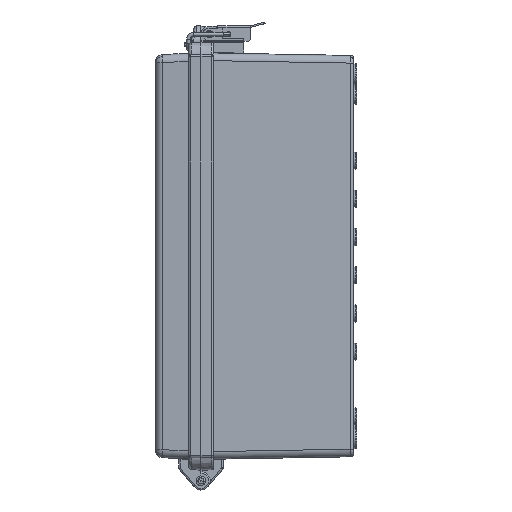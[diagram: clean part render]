
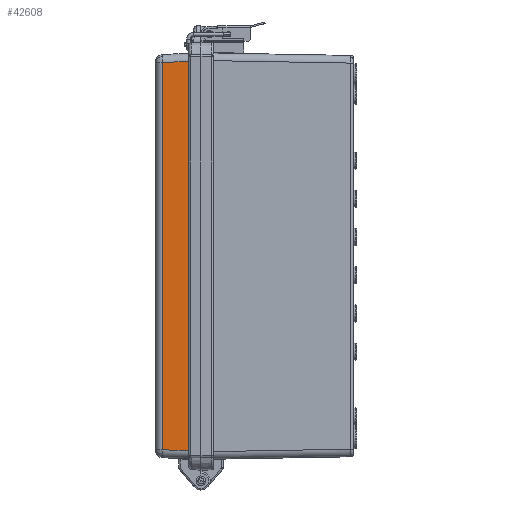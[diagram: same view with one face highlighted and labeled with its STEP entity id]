
A CAD part, left-side view. The second image highlights one B-rep face of the part: STEP entity #42608.
In plain terms, the highlighted planar face has unit normal (-0.999, 0.044, 0) as drawn and (0.999, -0.044, 0) by its records, which use the part's own axes.
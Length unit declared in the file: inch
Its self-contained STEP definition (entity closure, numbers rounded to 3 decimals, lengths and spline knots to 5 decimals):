
#2623 = DIRECTION ( 'NONE',  ( 0.044, 0.998, -0.044 ) ) ;
#10428 = FACE_OUTER_BOUND ( 'NONE', #17986, .T. ) ;
#11627 = DIRECTION ( 'NONE',  ( 0.999, -0.044, 0. ) ) ;
#11859 = VERTEX_POINT ( 'NONE', #43652 ) ;
#15442 = VECTOR ( 'NONE', #66306, 39.37008 ) ;
#17986 = EDGE_LOOP ( 'NONE', ( #61633, #58457, #39222, #100873 ) ) ;
#19184 = VERTEX_POINT ( 'NONE', #59713 ) ;
#21756 = LINE ( 'NONE', #27712, #108597 ) ;
#24556 = CARTESIAN_POINT ( 'NONE',  ( 7.16138, -0.99284, 4.98622 ) ) ;
#27712 = CARTESIAN_POINT ( 'NONE',  ( 7.18523, -0.44651, -5.01007 ) ) ;
#29195 = EDGE_CURVE ( 'NONE', #11859, #46489, #21756, .T. ) ;
#30186 = AXIS2_PLACEMENT_3D ( 'NONE', #104050, #11627, #70555 ) ;
#36517 = EDGE_CURVE ( 'NONE', #73935, #11859, #82635, .T. ) ;
#39222 = ORIENTED_EDGE ( 'NONE', *, *, #81100, .T. ) ;
#42608 = ADVANCED_FACE ( 'NONE', ( #10428 ), #45240, .T. ) ;
#43652 = CARTESIAN_POINT ( 'NONE',  ( 7.16138, -0.99284, -4.98622 ) ) ;
#44582 = DIRECTION ( 'NONE',  ( -0.044, -0.998, -0.044 ) ) ;
#45240 = PLANE ( 'NONE',  #30186 ) ;
#46489 = VERTEX_POINT ( 'NONE', #56231 ) ;
#51312 = LINE ( 'NONE', #103412, #68446 ) ;
#54325 = EDGE_CURVE ( 'NONE', #46489, #19184, #66510, .T. ) ;
#56231 = CARTESIAN_POINT ( 'NONE',  ( 7.19056, -0.32437, -5.0154 ) ) ;
#58457 = ORIENTED_EDGE ( 'NONE', *, *, #54325, .T. ) ;
#59713 = CARTESIAN_POINT ( 'NONE',  ( 7.19056, -0.32437, 5.0154 ) ) ;
#61419 = CARTESIAN_POINT ( 'NONE',  ( 7.19056, -0.32437, 5.01582 ) ) ;
#61633 = ORIENTED_EDGE ( 'NONE', *, *, #29195, .T. ) ;
#66306 = DIRECTION ( 'NONE',  ( 0., 0., -1. ) ) ;
#66510 = LINE ( 'NONE', #61419, #108602 ) ;
#68446 = VECTOR ( 'NONE', #44582, 39.37008 ) ;
#70555 = DIRECTION ( 'NONE',  ( 0.044, 0.999, 0. ) ) ;
#73935 = VERTEX_POINT ( 'NONE', #24556 ) ;
#81100 = EDGE_CURVE ( 'NONE', #19184, #73935, #51312, .T. ) ;
#82635 = LINE ( 'NONE', #82863, #15442 ) ;
#82863 = CARTESIAN_POINT ( 'NONE',  ( 7.16138, -0.99284, -4.978 ) ) ;
#95278 = DIRECTION ( 'NONE',  ( 0., 0., 1. ) ) ;
#100873 = ORIENTED_EDGE ( 'NONE', *, *, #36517, .T. ) ;
#103412 = CARTESIAN_POINT ( 'NONE',  ( 7.20512, 0.00899, 5.02996 ) ) ;
#104050 = CARTESIAN_POINT ( 'NONE',  ( 7.20472, 0., 5.23622 ) ) ;
#108597 = VECTOR ( 'NONE', #2623, 39.37008 ) ;
#108602 = VECTOR ( 'NONE', #95278, 39.37008 ) ;
